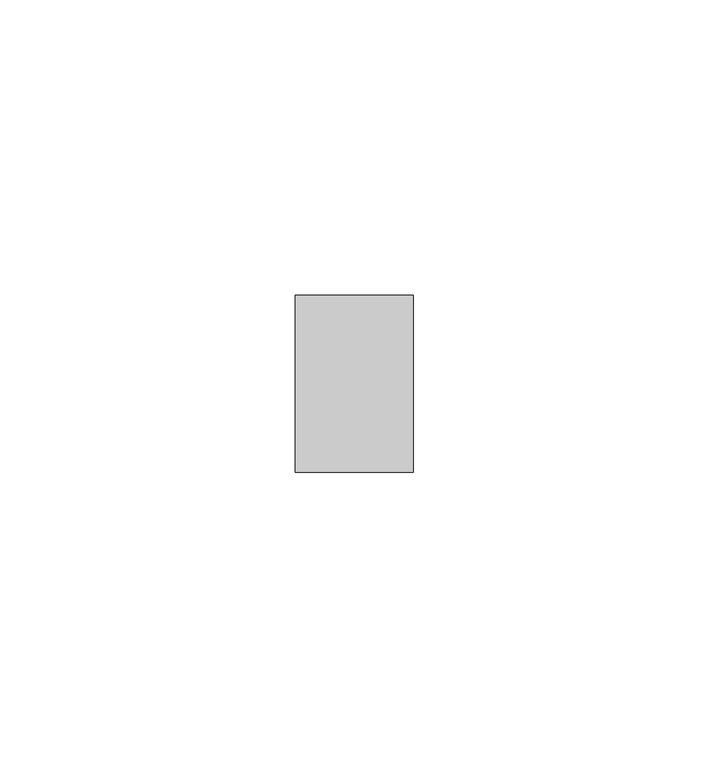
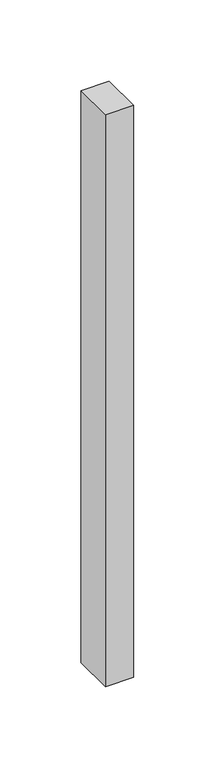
"""IFC4 building model written with IfcOpenShell, lengths in millimetres: member geometry, Прямоугольный импост : Квадрат 10 мм - Зазор между навесными плитами."""

from ifc_helpers import new_model, si_unit, frame, origin, place, context, project, spatial, polyline, outline, extrude, source, transform, mapped, element, save


def member_ce709463(model_context):
    return source(origin(), model_context, "Body", "SweptSolid", [
        extrude(outline(polyline([(10.0, 15.0), (10.0, -15.0), (-10.0, -15.0), (-10.0, 15.0), (10.0, 15.0)])), frame((0.0, 0.0, -429.5366688), z_axis=(0.0, 0.0, 1.0), x_axis=(1.0, 0.0, 0.0)), (0.0, 0.0, 1.0), 429.5366688),
    ])


if __name__ == "__main__":
    model = new_model("IFC4")
    model_context = context("Model", 3, world=origin())
    ifc_project = project(units=[si_unit("LENGTHUNIT", "METRE", prefix="MILLI")], contexts=[model_context])
    site = spatial("IfcSite", under=ifc_project)
    building = spatial("IfcBuilding", under=site)
    placement = place(None, origin())
    member_shape = member_ce709463(model_context)
    element("IfcMember", 1, ObjectType="Прямоугольный импост : Квадрат 10 мм - Зазор между навесными плитами", at=placement, inside=building, context=model_context, shape_type="MappedRepresentation", body=[
        mapped(member_shape, transform((0.0, 0.0, 0.0), x_axis=(1.0, 0.0, 0.0), y_axis=(0.0, 1.0, 0.0), z_axis=(0.0, 0.0, 1.0))),
    ])
    save(model, "model.ifc")
